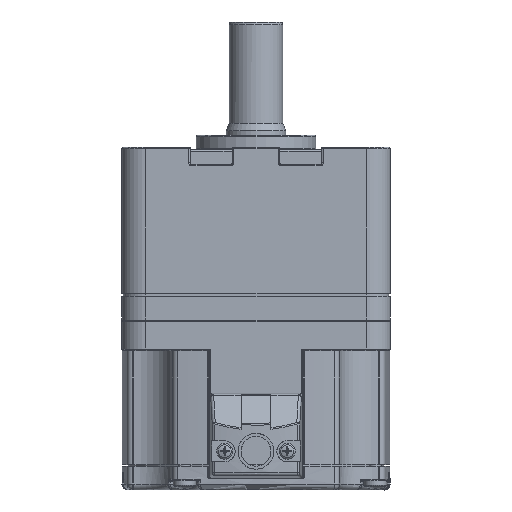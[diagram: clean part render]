
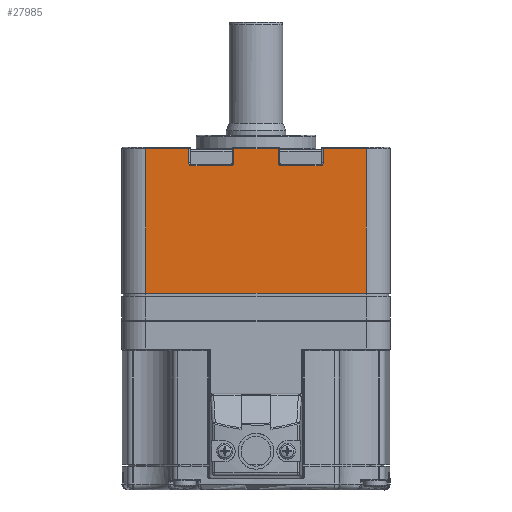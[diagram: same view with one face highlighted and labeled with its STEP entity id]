
A CAD part, front view. The second image highlights one B-rep face of the part: STEP entity #27985.
In plain terms, the highlighted planar face has unit normal (0, -1, 0).
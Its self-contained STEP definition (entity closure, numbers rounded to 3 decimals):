
#27692=CARTESIAN_POINT('',(98.389,90.667,216.063));
#27693=VERTEX_POINT('',#27692);
#27703=CARTESIAN_POINT('',(98.389,90.667,167.563));
#27704=VERTEX_POINT('',#27703);
#27705=CARTESIAN_POINT('',(98.389,90.667,216.063));
#27706=DIRECTION('',(0.0,0.0,-1.0));
#27707=VECTOR('',#27706,48.5);
#27708=LINE('',#27705,#27707);
#27709=EDGE_CURVE('',#27693,#27704,#27708,.T.);
#27736=CARTESIAN_POINT('',(24.389,90.667,216.063));
#27737=VERTEX_POINT('',#27736);
#27753=CARTESIAN_POINT('',(24.389,90.667,167.563));
#27754=VERTEX_POINT('',#27753);
#27762=CARTESIAN_POINT('',(24.389,90.667,167.563));
#27763=DIRECTION('',(0.0,0.0,1.0));
#27764=VECTOR('',#27763,48.5);
#27765=LINE('',#27762,#27764);
#27766=EDGE_CURVE('',#27754,#27737,#27765,.T.);
#27811=CARTESIAN_POINT('',(24.389,90.667,167.563));
#27812=DIRECTION('',(1.0,0.0,0.0));
#27813=VECTOR('',#27812,74.);
#27814=LINE('',#27811,#27813);
#27815=EDGE_CURVE('',#27754,#27704,#27814,.T.);
#27869=CARTESIAN_POINT('',(16.389,90.667,216.563));
#27870=DIRECTION('',(0.0,-1.0,0.0));
#27871=DIRECTION('',(0.0,0.0,-1.0));
#27872=AXIS2_PLACEMENT_3D('',#27869,#27870,#27871);
#27873=PLANE('',#27872);
#27874=CARTESIAN_POINT('',(83.889,90.667,216.063));
#27875=VERTEX_POINT('',#27874);
#27876=CARTESIAN_POINT('',(83.889,90.667,216.063));
#27877=DIRECTION('',(1.0,0.0,0.0));
#27878=VECTOR('',#27877,14.5);
#27879=LINE('',#27876,#27878);
#27880=EDGE_CURVE('',#27875,#27693,#27879,.T.);
#27881=ORIENTED_EDGE('',*,*,#27880,.F.);
#27882=CARTESIAN_POINT('',(83.889,90.667,211.263));
#27883=VERTEX_POINT('',#27882);
#27884=CARTESIAN_POINT('',(83.889,90.667,211.263));
#27885=DIRECTION('',(0.0,0.0,1.0));
#27886=VECTOR('',#27885,4.8);
#27887=LINE('',#27884,#27886);
#27888=EDGE_CURVE('',#27883,#27875,#27887,.T.);
#27889=ORIENTED_EDGE('',*,*,#27888,.F.);
#27890=CARTESIAN_POINT('',(82.889,90.667,210.263));
#27891=VERTEX_POINT('',#27890);
#27892=CARTESIAN_POINT('',(82.889,90.667,211.263));
#27893=DIRECTION('',(0.,-1.,0.));
#27894=DIRECTION('',(0.707,0.,-0.707));
#27895=AXIS2_PLACEMENT_3D('',#27892,#27893,#27894);
#27896=CIRCLE('',#27895,1.0);
#27897=EDGE_CURVE('',#27891,#27883,#27896,.T.);
#27898=ORIENTED_EDGE('',*,*,#27897,.F.);
#27899=CARTESIAN_POINT('',(69.889,90.667,210.263));
#27900=VERTEX_POINT('',#27899);
#27901=CARTESIAN_POINT('',(69.889,90.667,210.263));
#27902=DIRECTION('',(1.0,0.0,0.0));
#27903=VECTOR('',#27902,13.0);
#27904=LINE('',#27901,#27903);
#27905=EDGE_CURVE('',#27900,#27891,#27904,.T.);
#27906=ORIENTED_EDGE('',*,*,#27905,.F.);
#27907=CARTESIAN_POINT('',(68.889,90.667,211.263));
#27908=VERTEX_POINT('',#27907);
#27909=CARTESIAN_POINT('',(69.889,90.667,211.263));
#27910=DIRECTION('',(0.,-1.0,0.));
#27911=DIRECTION('',(-0.707,0.,-0.707));
#27912=AXIS2_PLACEMENT_3D('',#27909,#27910,#27911);
#27913=CIRCLE('',#27912,1.0);
#27914=EDGE_CURVE('',#27908,#27900,#27913,.T.);
#27915=ORIENTED_EDGE('',*,*,#27914,.F.);
#27916=CARTESIAN_POINT('',(68.889,90.667,216.063));
#27917=VERTEX_POINT('',#27916);
#27918=CARTESIAN_POINT('',(68.889,90.667,216.063));
#27919=DIRECTION('',(0.0,0.0,-1.0));
#27920=VECTOR('',#27919,4.8);
#27921=LINE('',#27918,#27920);
#27922=EDGE_CURVE('',#27917,#27908,#27921,.T.);
#27923=ORIENTED_EDGE('',*,*,#27922,.F.);
#27924=CARTESIAN_POINT('',(53.889,90.667,216.063));
#27925=VERTEX_POINT('',#27924);
#27926=CARTESIAN_POINT('',(53.889,90.667,216.063));
#27927=DIRECTION('',(1.0,0.0,0.0));
#27928=VECTOR('',#27927,15.);
#27929=LINE('',#27926,#27928);
#27930=EDGE_CURVE('',#27925,#27917,#27929,.T.);
#27931=ORIENTED_EDGE('',*,*,#27930,.F.);
#27932=CARTESIAN_POINT('',(53.889,90.667,211.263));
#27933=VERTEX_POINT('',#27932);
#27934=CARTESIAN_POINT('',(53.889,90.667,211.263));
#27935=DIRECTION('',(0.0,0.0,1.0));
#27936=VECTOR('',#27935,4.8);
#27937=LINE('',#27934,#27936);
#27938=EDGE_CURVE('',#27933,#27925,#27937,.T.);
#27939=ORIENTED_EDGE('',*,*,#27938,.F.);
#27940=CARTESIAN_POINT('',(52.889,90.667,210.263));
#27941=VERTEX_POINT('',#27940);
#27942=CARTESIAN_POINT('',(52.889,90.667,211.263));
#27943=DIRECTION('',(0.,-1.,0.));
#27944=DIRECTION('',(0.707,0.,-0.707));
#27945=AXIS2_PLACEMENT_3D('',#27942,#27943,#27944);
#27946=CIRCLE('',#27945,1.0);
#27947=EDGE_CURVE('',#27941,#27933,#27946,.T.);
#27948=ORIENTED_EDGE('',*,*,#27947,.F.);
#27949=CARTESIAN_POINT('',(39.889,90.667,210.263));
#27950=VERTEX_POINT('',#27949);
#27951=CARTESIAN_POINT('',(39.889,90.667,210.263));
#27952=DIRECTION('',(1.0,0.0,0.0));
#27953=VECTOR('',#27952,13.0);
#27954=LINE('',#27951,#27953);
#27955=EDGE_CURVE('',#27950,#27941,#27954,.T.);
#27956=ORIENTED_EDGE('',*,*,#27955,.F.);
#27957=CARTESIAN_POINT('',(38.889,90.667,211.263));
#27958=VERTEX_POINT('',#27957);
#27959=CARTESIAN_POINT('',(39.889,90.667,211.263));
#27960=DIRECTION('',(0.,-1.,0.));
#27961=DIRECTION('',(-0.707,0.,-0.707));
#27962=AXIS2_PLACEMENT_3D('',#27959,#27960,#27961);
#27963=CIRCLE('',#27962,1.0);
#27964=EDGE_CURVE('',#27958,#27950,#27963,.T.);
#27965=ORIENTED_EDGE('',*,*,#27964,.F.);
#27966=CARTESIAN_POINT('',(38.889,90.667,216.063));
#27967=VERTEX_POINT('',#27966);
#27968=CARTESIAN_POINT('',(38.889,90.667,216.063));
#27969=DIRECTION('',(0.0,0.0,-1.0));
#27970=VECTOR('',#27969,4.8);
#27971=LINE('',#27968,#27970);
#27972=EDGE_CURVE('',#27967,#27958,#27971,.T.);
#27973=ORIENTED_EDGE('',*,*,#27972,.F.);
#27974=CARTESIAN_POINT('',(24.389,90.667,216.063));
#27975=DIRECTION('',(1.0,0.0,0.0));
#27976=VECTOR('',#27975,14.5);
#27977=LINE('',#27974,#27976);
#27978=EDGE_CURVE('',#27737,#27967,#27977,.T.);
#27979=ORIENTED_EDGE('',*,*,#27978,.F.);
#27980=ORIENTED_EDGE('',*,*,#27766,.F.);
#27981=ORIENTED_EDGE('',*,*,#27815,.T.);
#27982=ORIENTED_EDGE('',*,*,#27709,.F.);
#27983=EDGE_LOOP('',(#27881,#27889,#27898,#27906,#27915,#27923,#27931,#27939,#27948,#27956,#27965,#27973,#27979,#27980,#27981,#27982));
#27984=FACE_OUTER_BOUND('',#27983,.T.);
#27985=ADVANCED_FACE('',(#27984),#27873,.T.);
